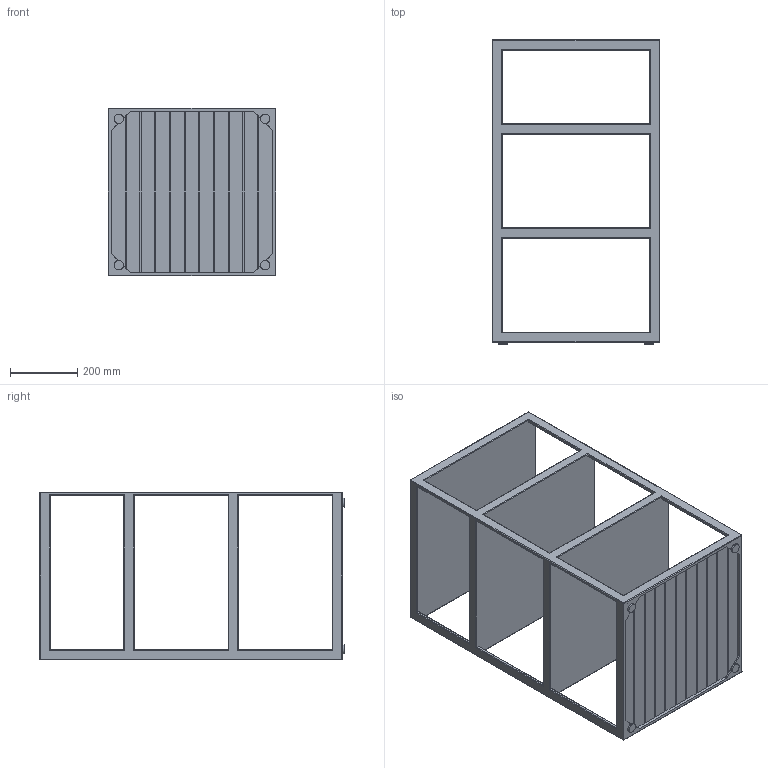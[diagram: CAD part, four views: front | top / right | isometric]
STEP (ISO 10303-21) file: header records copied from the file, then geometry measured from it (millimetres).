
FILE_DESCRIPTION(/* description */ (''),/* implementation_level */ '2;1');
FILE_NAME(/* name */ 'C:\INVENTOR\Workspace\# ARKITEKT FILER\Open Kitchen\OK Side Board 50\OK Side Board 50 wTeak.stp',/* time_stamp */ '2020-05-05T08:55:13+02:00',/* author */ ('Röshults'),/* organization */ (''),/* preprocessor_version */ 'ST-DEVELOPER v17.2',/* originating_system */ 'Autodesk Inventor 2019',/* authorisation */ '');
FILE_SCHEMA (('AUTOMOTIVE_DESIGN { 1 0 10303 214 3 1 1 }'));
Length unit declared in the file: millimetre
Products named in the file (3): OK Side Board 50 wTeak; Open Kitchen Side Board 50; Teak 50
Assembly tree (2 placements, depth 2):
  OK Side Board 50 wTeak
    Open Kitchen Side Board 50
    Teak 50
Bounding box: 500 x 905 x 500 mm (x, y, z)
Volume: 28650682.2 mm3; surface area: 2787465.8 mm2
Topology: 12 solids, 12 shells, 261 faces, 612 edges, 372 vertices
Faces by surface type: plane 149, cylinder 104, sphere 8
Full cylindrical faces by diameter (mm): 28 x4
Entity records: 7479 total; most frequent: DIRECTION 1286, CARTESIAN_POINT 1251, ORIENTED_EDGE 1224, EDGE_CURVE 612, LINE 472, VECTOR 472, AXIS2_PLACEMENT_3D 407, VERTEX_POINT 372
